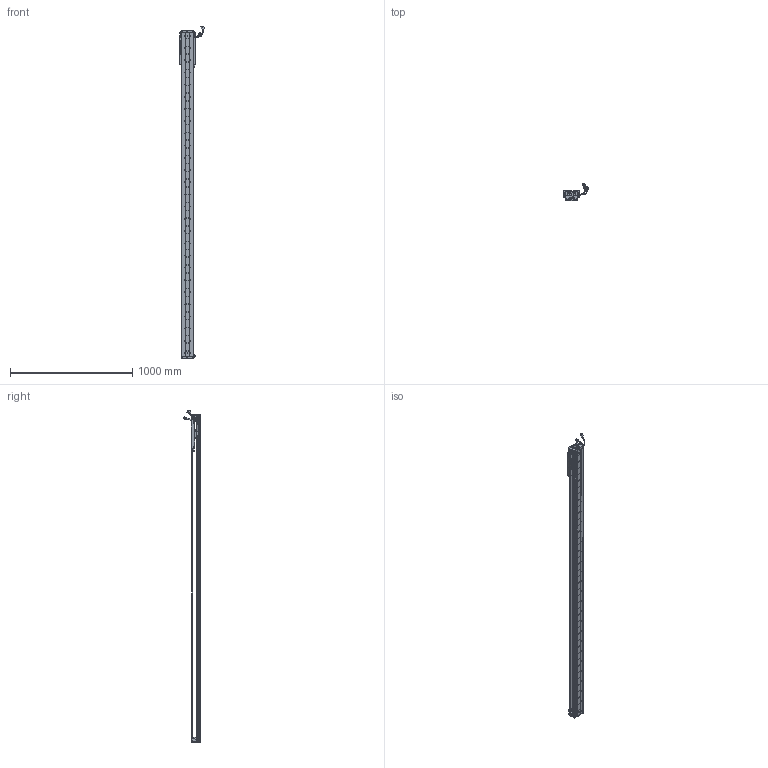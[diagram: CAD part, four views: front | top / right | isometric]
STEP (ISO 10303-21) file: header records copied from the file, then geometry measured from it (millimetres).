
FILE_DESCRIPTION (( 'STEP AP203' ), '1' );
FILE_NAME ('Z3-RY100D-1-L500-B-K.SLDASM_2350.step', '2021-05-17T02:52:13', ( '盈信电脑' ), ( '东莞市道滘镇水果街19号' ), 'SwSTEP 2.0', 'SolidWorks 2016', '' );
FILE_SCHEMA (( 'CONFIG_CONTROL_DESIGN' ));
Length unit declared in the file: millimetre
Products named in the file (36): Z-100詩湍傷裔啣; 080黍杅芛假蚾釱21遴; Z-RY100D覜茼んえ; SCALE-Part-1; 140蚥薯蝶輸; Z3-RY100D-1-L500-B-K.SLDASM_2350; PBU_SHEET; HARNESS-Part-1; HARNESS-Part-2; Z3-RY100D-500-倰第菁釱_2350; SCREW-M1.7-1; SCREW-M1.7; COVER; SCREW-M1.6; SEAL-Part-1; SCREW-M1.6-3; Z3-RY100-L500詩湍90mm遵_2350; SCALE; SCREW-M1.6-1; HARNESS; 140雄赽晤鎢ん堤盄; SCALE-Part-2; Z-RY100D詩湍狟揤裔; 榋妏寠巭燃_暯_M2_2; SEAL; SHIELDPLATE; COVER-Part-1; LABEL; PSLH080_PSLF2; 100-Z-臏賑輸盄裔(21遴); HOLDER0; SCREW-M1.6-2; LABEL-Part-1; 覜茼ん672; Z3-RY100铝滑块（21款）; Z-RY100D詩湍奻揤裔
Assembly tree (43 placements, depth 4):
  Z3-RY100D-1-L500-B-K.SLDASM_2350
    Z3-RY100D-500-倰第菁釱_2350
    Z3-RY100铝滑块（21款）
    PSLH080_PSLF2
      SCALE
        SCALE-Part-1
        SCALE-Part-2
      HARNESS
        HARNESS-Part-1
        HARNESS-Part-2
      LABEL
        LABEL-Part-1
      COVER
        COVER-Part-1
      SEAL
        SEAL-Part-1
      榋妏寠巭燃_暯_M2_2
      SHIELDPLATE
      SCREW-M1.7
      SCREW-M1.7-1
      PBU_SHEET
      SCREW-M1.6
      SCREW-M1.6-1
      SCREW-M1.6-2
      SCREW-M1.6-3
      HOLDER0
    080黍杅芛假蚾釱21遴
    Z-100詩湍傷裔啣  x2
    140蚥薯蝶輸  x2
    覜茼ん672  x3
    Z-RY100D覜茼んえ  x3
    100-Z-臏賑輸盄裔(21遴)
    140雄赽晤鎢ん堤盄
    Z3-RY100-L500詩湍90mm遵_2350
    Z-RY100D詩湍狟揤裔  x2
    Z-RY100D詩湍奻揤裔  x2
Bounding box: 205.79 x 136.11 x 2720.43 mm (x, y, z)
Volume: 4975561.3 mm3; surface area: 1960101.2 mm2
Topology: 38 solids, 38 shells, 3025 faces, 8263 edges, 5276 vertices
Faces by surface type: cylinder 1490, plane 1187, cone 226, torus 69, bspline 53
Entity records: 87721 total; most frequent: CARTESIAN_POINT 18369, DIRECTION 14153, ORIENTED_EDGE 13406, EDGE_CURVE 6703, AXIS2_PLACEMENT_3D 5324, VERTEX_POINT 4344, VECTOR 3505, LINE 3505
